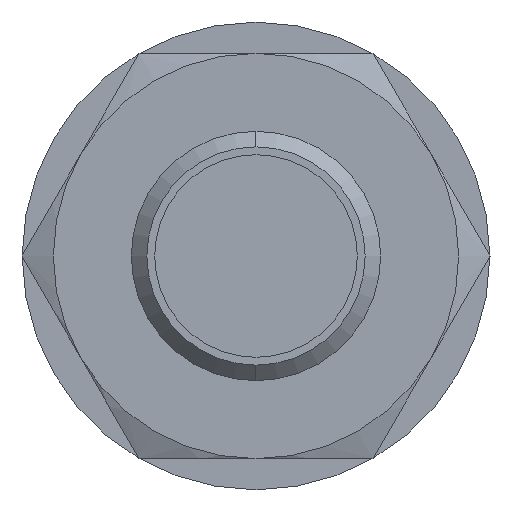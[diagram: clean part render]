
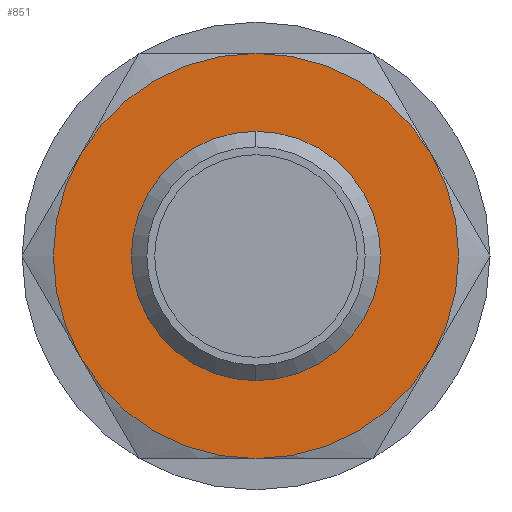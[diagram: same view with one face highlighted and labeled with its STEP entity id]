
A CAD part, left-side view. The second image highlights one B-rep face of the part: STEP entity #851.
In plain terms, the highlighted planar face has unit normal (-1, 0, 0).
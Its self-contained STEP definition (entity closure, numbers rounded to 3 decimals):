
#17 = VERTEX_POINT ( 'NONE', #4361 ) ;
#40 = DIRECTION ( 'NONE',  ( 1., 0., 0. ) ) ;
#163 = FACE_OUTER_BOUND ( 'NONE', #2668, .T. ) ;
#264 = EDGE_CURVE ( 'NONE', #633, #5365, #3337, .T. ) ;
#284 = CARTESIAN_POINT ( 'NONE',  ( 13., 0., 0. ) ) ;
#318 = EDGE_CURVE ( 'NONE', #2579, #483, #4266, .T. ) ;
#377 = DIRECTION ( 'NONE',  ( 0., 0., -1. ) ) ;
#383 = EDGE_CURVE ( 'NONE', #5365, #633, #4375, .T. ) ;
#483 = VERTEX_POINT ( 'NONE', #3898 ) ;
#496 = DIRECTION ( 'NONE',  ( 1., 0., 0. ) ) ;
#544 = DIRECTION ( 'NONE',  ( 0., 0., -1. ) ) ;
#633 = VERTEX_POINT ( 'NONE', #6363 ) ;
#689 = CARTESIAN_POINT ( 'NONE',  ( 13., -5.629, -3.25 ) ) ;
#851 = ADVANCED_FACE ( 'NONE', ( #1183, #163 ), #3418, .F. ) ;
#901 = VERTEX_POINT ( 'NONE', #6178 ) ;
#994 = CARTESIAN_POINT ( 'NONE',  ( 13., 0., 0. ) ) ;
#995 = VERTEX_POINT ( 'NONE', #3369 ) ;
#1183 = FACE_BOUND ( 'NONE', #6604, .T. ) ;
#1313 = EDGE_CURVE ( 'NONE', #483, #17, #5079, .T. ) ;
#1382 = EDGE_CURVE ( 'NONE', #995, #1682, #2886, .T. ) ;
#1500 = DIRECTION ( 'NONE',  ( 1., 0., 0. ) ) ;
#1660 = CIRCLE ( 'NONE', #5686, 6.5 ) ;
#1682 = VERTEX_POINT ( 'NONE', #689 ) ;
#1747 = DIRECTION ( 'NONE',  ( 1., 0., 0. ) ) ;
#1761 = ORIENTED_EDGE ( 'NONE', *, *, #1382, .F. ) ;
#1798 = EDGE_CURVE ( 'NONE', #1682, #901, #6301, .T. ) ;
#1865 = CARTESIAN_POINT ( 'NONE',  ( 13., 0., 0. ) ) ;
#1963 = AXIS2_PLACEMENT_3D ( 'NONE', #4915, #4851, #4415 ) ;
#1979 = CIRCLE ( 'NONE', #5089, 6.5 ) ;
#2094 = ORIENTED_EDGE ( 'NONE', *, *, #383, .T. ) ;
#2167 = DIRECTION ( 'NONE',  ( 0., 0., -1. ) ) ;
#2186 = AXIS2_PLACEMENT_3D ( 'NONE', #4461, #40, #544 ) ;
#2240 = DIRECTION ( 'NONE',  ( 0., 1., 0. ) ) ;
#2323 = CARTESIAN_POINT ( 'NONE',  ( 13., 0., 0. ) ) ;
#2408 = DIRECTION ( 'NONE',  ( 1., 0., 0. ) ) ;
#2579 = VERTEX_POINT ( 'NONE', #4998 ) ;
#2668 = EDGE_LOOP ( 'NONE', ( #3353, #5920, #3067, #1761, #6343, #4690 ) ) ;
#2886 = CIRCLE ( 'NONE', #1963, 6.5 ) ;
#3067 = ORIENTED_EDGE ( 'NONE', *, *, #1798, .F. ) ;
#3106 = AXIS2_PLACEMENT_3D ( 'NONE', #5035, #1747, #6127 ) ;
#3315 = CARTESIAN_POINT ( 'NONE',  ( 13., 0., 0. ) ) ;
#3337 = CIRCLE ( 'NONE', #2186, 4. ) ;
#3353 = ORIENTED_EDGE ( 'NONE', *, *, #318, .F. ) ;
#3369 = CARTESIAN_POINT ( 'NONE',  ( 13., -5.629, 3.25 ) ) ;
#3418 = PLANE ( 'NONE',  #6084 ) ;
#3686 = AXIS2_PLACEMENT_3D ( 'NONE', #284, #4744, #5243 ) ;
#3760 = EDGE_CURVE ( 'NONE', #901, #2579, #1979, .T. ) ;
#3772 = AXIS2_PLACEMENT_3D ( 'NONE', #2323, #4597, #6233 ) ;
#3898 = CARTESIAN_POINT ( 'NONE',  ( 13., 5.629, 3.25 ) ) ;
#3993 = ORIENTED_EDGE ( 'NONE', *, *, #264, .T. ) ;
#4144 = AXIS2_PLACEMENT_3D ( 'NONE', #5443, #496, #2167 ) ;
#4266 = CIRCLE ( 'NONE', #3106, 6.5 ) ;
#4361 = CARTESIAN_POINT ( 'NONE',  ( 13., 0., 6.5 ) ) ;
#4375 = CIRCLE ( 'NONE', #4144, 4. ) ;
#4415 = DIRECTION ( 'NONE',  ( 0., 0., -1. ) ) ;
#4454 = EDGE_CURVE ( 'NONE', #17, #995, #1660, .T. ) ;
#4461 = CARTESIAN_POINT ( 'NONE',  ( 13., 0., 0. ) ) ;
#4597 = DIRECTION ( 'NONE',  ( 1., 0., 0. ) ) ;
#4690 = ORIENTED_EDGE ( 'NONE', *, *, #1313, .F. ) ;
#4744 = DIRECTION ( 'NONE',  ( 1., 0., 0. ) ) ;
#4851 = DIRECTION ( 'NONE',  ( 1., 0., 0. ) ) ;
#4915 = CARTESIAN_POINT ( 'NONE',  ( 13., 0., 0. ) ) ;
#4998 = CARTESIAN_POINT ( 'NONE',  ( 13., 5.629, -3.25 ) ) ;
#5035 = CARTESIAN_POINT ( 'NONE',  ( 13., 0., 0. ) ) ;
#5079 = CIRCLE ( 'NONE', #3686, 6.5 ) ;
#5089 = AXIS2_PLACEMENT_3D ( 'NONE', #994, #1500, #377 ) ;
#5243 = DIRECTION ( 'NONE',  ( 0., 0., -1. ) ) ;
#5365 = VERTEX_POINT ( 'NONE', #6488 ) ;
#5443 = CARTESIAN_POINT ( 'NONE',  ( 13., 0., 0. ) ) ;
#5686 = AXIS2_PLACEMENT_3D ( 'NONE', #1865, #2408, #6680 ) ;
#5920 = ORIENTED_EDGE ( 'NONE', *, *, #3760, .F. ) ;
#6069 = DIRECTION ( 'NONE',  ( 1., 0., 0. ) ) ;
#6084 = AXIS2_PLACEMENT_3D ( 'NONE', #3315, #6069, #2240 ) ;
#6127 = DIRECTION ( 'NONE',  ( 0., 0., -1. ) ) ;
#6178 = CARTESIAN_POINT ( 'NONE',  ( 13., 0., -6.5 ) ) ;
#6233 = DIRECTION ( 'NONE',  ( 0., 0., -1. ) ) ;
#6301 = CIRCLE ( 'NONE', #3772, 6.5 ) ;
#6343 = ORIENTED_EDGE ( 'NONE', *, *, #4454, .F. ) ;
#6363 = CARTESIAN_POINT ( 'NONE',  ( 13., 0., -4. ) ) ;
#6488 = CARTESIAN_POINT ( 'NONE',  ( 13., 0., 4. ) ) ;
#6604 = EDGE_LOOP ( 'NONE', ( #2094, #3993 ) ) ;
#6680 = DIRECTION ( 'NONE',  ( 0., 0., -1. ) ) ;
